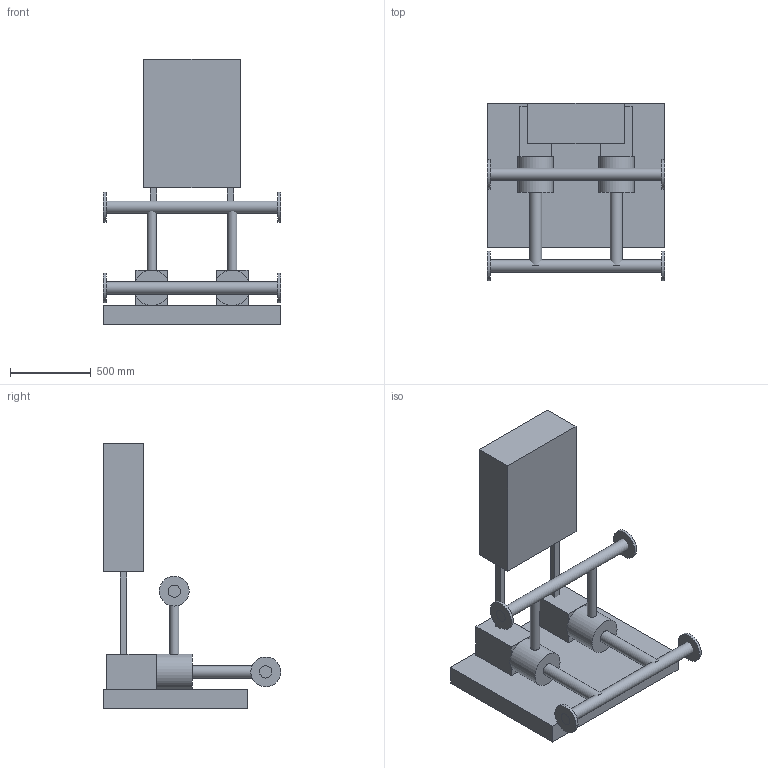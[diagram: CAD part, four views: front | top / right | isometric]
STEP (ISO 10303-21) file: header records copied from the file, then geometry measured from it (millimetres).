
FILE_DESCRIPTION(('Open CASCADE Model'),'2;1');
FILE_NAME('Open CASCADE Shape Model','2026-10-21T15:05:54',('Author'),( 'Open CASCADE'),'Open CASCADE STEP processor 7.9','Open CASCADE 7.9' ,'Unknown');
FILE_SCHEMA(('AUTOMOTIVE_DESIGN { 1 0 10303 214 1 1 1 1 }'));
Length unit declared in the file: millimetre
Products named in the file (19): Ð£ÐÐÐ_ÐÐ ÐÐÐÐ¬_2_FST_50_125_30; 000_ÐÐ¾Ð»Ð»ÐµÐºÑÐ¾Ñ 
Ð²ÑÐ°ÑÑÐ²Ð°ÑÑÐ¸Ð¹; 001_ÐÐ¾Ð»Ð»ÐµÐºÑÐ¾Ñ 
Ð²ÑÐ°ÑÑÐ²Ð°ÑÑÐ¸Ð¹ â 
ÑÐ»Ð°Ð½ÐµÑ ÐÑ65; 002_ÐÐ¾Ð»Ð»ÐµÐºÑÐ¾Ñ 
Ð²ÑÐ°ÑÑÐ²Ð°ÑÑÐ¸Ð¹ â 
ÑÐ»Ð°Ð½ÐµÑ ÐÑ65; 003_ÐÐ¾Ð»Ð»ÐµÐºÑÐ¾Ñ 
Ð½Ð°Ð¿Ð¾ÑÐ½ÑÐ¹; 004_ÐÐ¾Ð»Ð»ÐµÐºÑÐ¾Ñ 
Ð½Ð°Ð¿Ð¾ÑÐ½ÑÐ¹ â ÑÐ»Ð°Ð½ÐµÑ 
ÐÑ65; 005_ÐÐ¾Ð»Ð»ÐµÐºÑÐ¾Ñ 
Ð½Ð°Ð¿Ð¾ÑÐ½ÑÐ¹ â ÑÐ»Ð°Ð½ÐµÑ 
ÐÑ65; 006_Ð Ð°Ð¼Ð° (Ð¾ÑÐ½Ð¾Ð²Ð°Ð½Ð¸Ðµ); 007_ÐÐ°ÑÐ¾Ñ 1 â ÐºÐ¾ÑÐ¿ÑÑ FST 50-125; 008_ÐÐ°ÑÐ¾Ñ 1 â Ð´Ð²Ð¸Ð³Ð°ÑÐµÐ»Ñ 
3.0 ÐºÐÑ; 009_ÐÐ°ÑÐ¾Ñ 1 â Ð²ÑÐ¾Ð´ ÐÑ65; 010_ÐÐ°ÑÐ¾Ñ 1 â Ð²ÑÑÐ¾Ð´ ÐÑ50; 011_ÐÐ°ÑÐ¾Ñ 2 â ÐºÐ¾ÑÐ¿ÑÑ FST 50-125; 012_ÐÐ°ÑÐ¾Ñ 2 â Ð´Ð²Ð¸Ð³Ð°ÑÐµÐ»Ñ 
3.0 ÐºÐÑ; 013_ÐÐ°ÑÐ¾Ñ 2 â Ð²ÑÐ¾Ð´ ÐÑ65; 014_ÐÐ°ÑÐ¾Ñ 2 â Ð²ÑÑÐ¾Ð´ ÐÑ50; 015_Ð¨ÐºÐ°Ñ ÑÐ¿ÑÐ°Ð²Ð»ÐµÐ½Ð¸Ñ; 016_Ð¡ÑÐ¾Ð¹ÐºÐ° ÑÐºÐ°ÑÐ°; 017_Ð¡ÑÐ¾Ð¹ÐºÐ° ÑÐºÐ°ÑÐ°
Assembly tree (18 placements, depth 2):
  Ð£ÐÐÐ_ÐÐ ÐÐÐÐ¬_2_FST_50_125_30
    000_ÐÐ¾Ð»Ð»ÐµÐºÑÐ¾Ñ 
Ð²ÑÐ°ÑÑÐ²Ð°ÑÑÐ¸Ð¹
    001_ÐÐ¾Ð»Ð»ÐµÐºÑÐ¾Ñ 
Ð²ÑÐ°ÑÑÐ²Ð°ÑÑÐ¸Ð¹ â 
ÑÐ»Ð°Ð½ÐµÑ ÐÑ65
    002_ÐÐ¾Ð»Ð»ÐµÐºÑÐ¾Ñ 
Ð²ÑÐ°ÑÑÐ²Ð°ÑÑÐ¸Ð¹ â 
ÑÐ»Ð°Ð½ÐµÑ ÐÑ65
    003_ÐÐ¾Ð»Ð»ÐµÐºÑÐ¾Ñ 
Ð½Ð°Ð¿Ð¾ÑÐ½ÑÐ¹
    004_ÐÐ¾Ð»Ð»ÐµÐºÑÐ¾Ñ 
Ð½Ð°Ð¿Ð¾ÑÐ½ÑÐ¹ â ÑÐ»Ð°Ð½ÐµÑ 
ÐÑ65
    005_ÐÐ¾Ð»Ð»ÐµÐºÑÐ¾Ñ 
Ð½Ð°Ð¿Ð¾ÑÐ½ÑÐ¹ â ÑÐ»Ð°Ð½ÐµÑ 
ÐÑ65
    006_Ð Ð°Ð¼Ð° (Ð¾ÑÐ½Ð¾Ð²Ð°Ð½Ð¸Ðµ)
    007_ÐÐ°ÑÐ¾Ñ 1 â ÐºÐ¾ÑÐ¿ÑÑ FST 50-125
    008_ÐÐ°ÑÐ¾Ñ 1 â Ð´Ð²Ð¸Ð³Ð°ÑÐµÐ»Ñ 
3.0 ÐºÐÑ
    009_ÐÐ°ÑÐ¾Ñ 1 â Ð²ÑÐ¾Ð´ ÐÑ65
    010_ÐÐ°ÑÐ¾Ñ 1 â Ð²ÑÑÐ¾Ð´ ÐÑ50
    011_ÐÐ°ÑÐ¾Ñ 2 â ÐºÐ¾ÑÐ¿ÑÑ FST 50-125
    012_ÐÐ°ÑÐ¾Ñ 2 â Ð´Ð²Ð¸Ð³Ð°ÑÐµÐ»Ñ 
3.0 ÐºÐÑ
    013_ÐÐ°ÑÐ¾Ñ 2 â Ð²ÑÐ¾Ð´ ÐÑ65
    014_ÐÐ°ÑÐ¾Ñ 2 â Ð²ÑÑÐ¾Ð´ ÐÑ50
    015_Ð¨ÐºÐ°Ñ ÑÐ¿ÑÐ°Ð²Ð»ÐµÐ½Ð¸Ñ
    016_Ð¡ÑÐ¾Ð¹ÐºÐ° ÑÐºÐ°ÑÐ°
    017_Ð¡ÑÐ¾Ð¹ÐºÐ° ÑÐºÐ°ÑÐ°
Bounding box: 1100 x 1100 x 1650 mm (x, y, z)
Volume: 301680414.9 mm3; surface area: 6674290 mm2
Topology: 18 solids, 18 shells, 72 faces, 108 edges, 72 vertices
Faces by surface type: plane 60, cylinder 12
Full cylindrical faces by diameter (mm): 57 x2, 76 x4, 185 x4, 220 x2
Entity records: 3430 total; most frequent: DIRECTION 530, CARTESIAN_POINT 487, LINE 276, VECTOR 276, ORIENTED_EDGE 216, PCURVE 216, DEFINITIONAL_REPRESENTATION 216, AXIS2_PLACEMENT_3D 115
